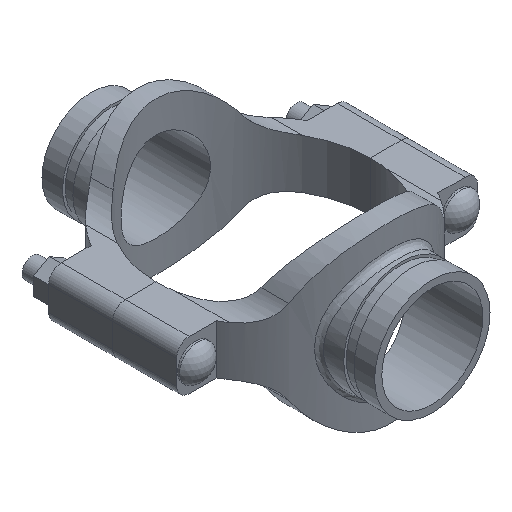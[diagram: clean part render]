
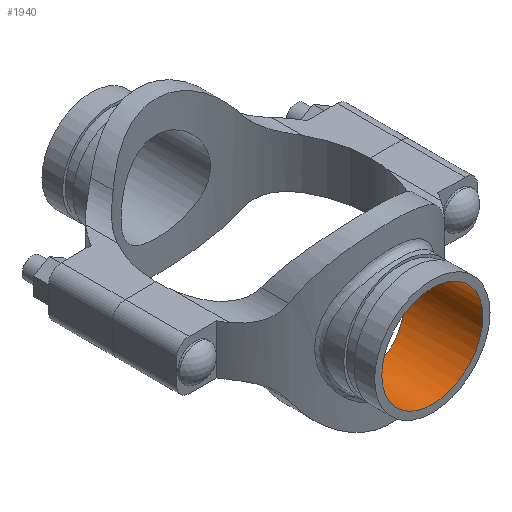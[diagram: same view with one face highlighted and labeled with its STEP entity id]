
A CAD part, isometric view. The second image highlights one B-rep face of the part: STEP entity #1940.
In plain terms, the highlighted cylindrical face has radius 38.894 mm (diameter 77.787 mm), a full revolution.
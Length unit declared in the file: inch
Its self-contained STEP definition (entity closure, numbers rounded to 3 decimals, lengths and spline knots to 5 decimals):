
#48=B_SPLINE_CURVE_WITH_KNOTS('',3,(#3964,#3965,#3966,#3967,#3968,#3969,
#3970,#3971,#3972,#3973,#3974,#3975,#3976,#3977,#3978,#3979,#3980,#3981,
#3982,#3983,#3984,#3985,#3986,#3987,#3988,#3989,#3990,#3991,#3992,#3993,
#3994,#3995,#3996,#3997,#3998,#3999,#4000,#4001,#4002,#4003,#4004,#4005,
#4006,#4007,#4008,#4009,#4010,#4011,#4012,#4013,#4014,#4015,#4016,#4017,
#4018,#4019,#4020,#4021,#4022,#4023,#4024,#4025,#4026,#4027,#4028,#4029),
 .UNSPECIFIED.,.T.,.F.,(4,2,2,2,2,2,2,2,2,2,2,2,2,2,2,2,2,2,2,2,2,2,2,2,
2,2,2,2,2,2,2,2,4),(0.,0.74639,1.49279,2.23918,
2.98558,3.73042,4.47526,5.2201,5.96494,
6.70978,7.45462,8.19946,8.9443,9.6907,
10.43709,11.18349,11.92988,12.67628,13.42267,
14.16907,14.91546,15.6603,16.40514,17.14998,
17.89482,18.63966,19.3845,20.12935,20.87419,
21.62058,22.36698,23.11337,23.85977),
 .UNSPECIFIED.);
#91=CYLINDRICAL_SURFACE('',#2173,1.53125);
#206=FACE_OUTER_BOUND('',#326,.T.);
#326=EDGE_LOOP('',(#1556,#1557,#1558,#1559));
#474=LINE('',#3963,#620);
#620=VECTOR('',#2628,1.53125);
#720=CIRCLE('',#2174,1.53125);
#881=VERTEX_POINT('',#3960);
#882=VERTEX_POINT('',#3962);
#1120=EDGE_CURVE('',#881,#881,#720,.T.);
#1121=EDGE_CURVE('',#881,#882,#474,.T.);
#1122=EDGE_CURVE('',#882,#882,#48,.T.);
#1556=ORIENTED_EDGE('',*,*,#1120,.F.);
#1557=ORIENTED_EDGE('',*,*,#1121,.T.);
#1558=ORIENTED_EDGE('',*,*,#1122,.F.);
#1559=ORIENTED_EDGE('',*,*,#1121,.F.);
#1940=ADVANCED_FACE('',(#206),#91,.F.);
#2173=AXIS2_PLACEMENT_3D('',#3959,#2624,#2625);
#2174=AXIS2_PLACEMENT_3D('',#3961,#2626,#2627);
#2624=DIRECTION('center_axis',(0.,-1.,0.));
#2625=DIRECTION('ref_axis',(-1.,0.,0.));
#2626=DIRECTION('center_axis',(0.,-1.,0.));
#2627=DIRECTION('ref_axis',(-1.,0.,0.));
#2628=DIRECTION('',(0.,-1.,0.));
#3959=CARTESIAN_POINT('Origin',(0.,5.13,0.));
#3960=CARTESIAN_POINT('',(1.53125,5.13,0.));
#3961=CARTESIAN_POINT('Origin',(0.,5.13,0.));
#3962=CARTESIAN_POINT('',(1.53125,2.86667,0.));
#3963=CARTESIAN_POINT('',(1.53125,5.13,0.));
#3964=CARTESIAN_POINT('Ctrl Pts',(1.53125,2.86667,0.));
#3965=CARTESIAN_POINT('Ctrl Pts',(1.53125,2.86667,-0.09795));
#3966=CARTESIAN_POINT('Ctrl Pts',(1.5217,2.87183,-0.19863));
#3967=CARTESIAN_POINT('Ctrl Pts',(1.48216,2.89244,-0.39777));
#3968=CARTESIAN_POINT('Ctrl Pts',(1.45219,2.90784,-0.49625));
#3969=CARTESIAN_POINT('Ctrl Pts',(1.37364,2.94576,-0.68428));
#3970=CARTESIAN_POINT('Ctrl Pts',(1.325,2.96826,-0.77401));
#3971=CARTESIAN_POINT('Ctrl Pts',(1.21316,3.0157,-0.93965));
#3972=CARTESIAN_POINT('Ctrl Pts',(1.14995,3.04059,-1.01556));
#3973=CARTESIAN_POINT('Ctrl Pts',(1.0157,3.08803,-1.14981));
#3974=CARTESIAN_POINT('Ctrl Pts',(0.93986,3.11232,-1.21301));
#3975=CARTESIAN_POINT('Ctrl Pts',(0.77419,3.15761,-1.3249));
#3976=CARTESIAN_POINT('Ctrl Pts',(0.68436,3.17857,-1.3736));
#3977=CARTESIAN_POINT('Ctrl Pts',(0.49612,3.21334,-1.45224));
#3978=CARTESIAN_POINT('Ctrl Pts',(0.39754,3.22714,-1.48223));
#3979=CARTESIAN_POINT('Ctrl Pts',(0.19836,3.24548,-1.52174));
#3980=CARTESIAN_POINT('Ctrl Pts',(0.09775,3.25,-1.53125));
#3981=CARTESIAN_POINT('Ctrl Pts',(-0.09775,3.25,-1.53125));
#3982=CARTESIAN_POINT('Ctrl Pts',(-0.19836,3.24548,-1.52174));
#3983=CARTESIAN_POINT('Ctrl Pts',(-0.39754,3.22714,-1.48223));
#3984=CARTESIAN_POINT('Ctrl Pts',(-0.49612,3.21334,-1.45224));
#3985=CARTESIAN_POINT('Ctrl Pts',(-0.68436,3.17857,-1.3736));
#3986=CARTESIAN_POINT('Ctrl Pts',(-0.77419,3.15761,-1.3249));
#3987=CARTESIAN_POINT('Ctrl Pts',(-0.93986,3.11232,-1.21301));
#3988=CARTESIAN_POINT('Ctrl Pts',(-1.0157,3.08803,-1.14981));
#3989=CARTESIAN_POINT('Ctrl Pts',(-1.14995,3.04059,-1.01556));
#3990=CARTESIAN_POINT('Ctrl Pts',(-1.21316,3.0157,-0.93965));
#3991=CARTESIAN_POINT('Ctrl Pts',(-1.325,2.96826,-0.77401));
#3992=CARTESIAN_POINT('Ctrl Pts',(-1.37364,2.94576,-0.68428));
#3993=CARTESIAN_POINT('Ctrl Pts',(-1.45219,2.90784,-0.49625));
#3994=CARTESIAN_POINT('Ctrl Pts',(-1.48216,2.89244,-0.39777));
#3995=CARTESIAN_POINT('Ctrl Pts',(-1.5217,2.87183,-0.19863));
#3996=CARTESIAN_POINT('Ctrl Pts',(-1.53125,2.86667,-0.09795));
#3997=CARTESIAN_POINT('Ctrl Pts',(-1.53125,2.86667,0.09795));
#3998=CARTESIAN_POINT('Ctrl Pts',(-1.5217,2.87183,0.19863));
#3999=CARTESIAN_POINT('Ctrl Pts',(-1.48216,2.89244,0.39777));
#4000=CARTESIAN_POINT('Ctrl Pts',(-1.45219,2.90784,0.49625));
#4001=CARTESIAN_POINT('Ctrl Pts',(-1.37364,2.94576,0.68428));
#4002=CARTESIAN_POINT('Ctrl Pts',(-1.325,2.96826,0.77401));
#4003=CARTESIAN_POINT('Ctrl Pts',(-1.21316,3.0157,0.93965));
#4004=CARTESIAN_POINT('Ctrl Pts',(-1.14995,3.04059,1.01556));
#4005=CARTESIAN_POINT('Ctrl Pts',(-1.0157,3.08803,1.14981));
#4006=CARTESIAN_POINT('Ctrl Pts',(-0.93986,3.11232,1.21301));
#4007=CARTESIAN_POINT('Ctrl Pts',(-0.77419,3.15761,1.3249));
#4008=CARTESIAN_POINT('Ctrl Pts',(-0.68436,3.17857,1.3736));
#4009=CARTESIAN_POINT('Ctrl Pts',(-0.49612,3.21334,1.45224));
#4010=CARTESIAN_POINT('Ctrl Pts',(-0.39754,3.22714,1.48223));
#4011=CARTESIAN_POINT('Ctrl Pts',(-0.19836,3.24548,1.52174));
#4012=CARTESIAN_POINT('Ctrl Pts',(-0.09775,3.25,1.53125));
#4013=CARTESIAN_POINT('Ctrl Pts',(0.09775,3.25,1.53125));
#4014=CARTESIAN_POINT('Ctrl Pts',(0.19836,3.24548,1.52174));
#4015=CARTESIAN_POINT('Ctrl Pts',(0.39754,3.22714,1.48223));
#4016=CARTESIAN_POINT('Ctrl Pts',(0.49612,3.21334,1.45224));
#4017=CARTESIAN_POINT('Ctrl Pts',(0.68436,3.17857,1.3736));
#4018=CARTESIAN_POINT('Ctrl Pts',(0.77419,3.15761,1.3249));
#4019=CARTESIAN_POINT('Ctrl Pts',(0.93986,3.11232,1.21301));
#4020=CARTESIAN_POINT('Ctrl Pts',(1.0157,3.08803,1.14981));
#4021=CARTESIAN_POINT('Ctrl Pts',(1.14995,3.04059,1.01556));
#4022=CARTESIAN_POINT('Ctrl Pts',(1.21316,3.0157,0.93965));
#4023=CARTESIAN_POINT('Ctrl Pts',(1.325,2.96826,0.77401));
#4024=CARTESIAN_POINT('Ctrl Pts',(1.37364,2.94576,0.68428));
#4025=CARTESIAN_POINT('Ctrl Pts',(1.45219,2.90784,0.49625));
#4026=CARTESIAN_POINT('Ctrl Pts',(1.48216,2.89244,0.39777));
#4027=CARTESIAN_POINT('Ctrl Pts',(1.5217,2.87183,0.19863));
#4028=CARTESIAN_POINT('Ctrl Pts',(1.53125,2.86667,0.09795));
#4029=CARTESIAN_POINT('Ctrl Pts',(1.53125,2.86667,0.));
